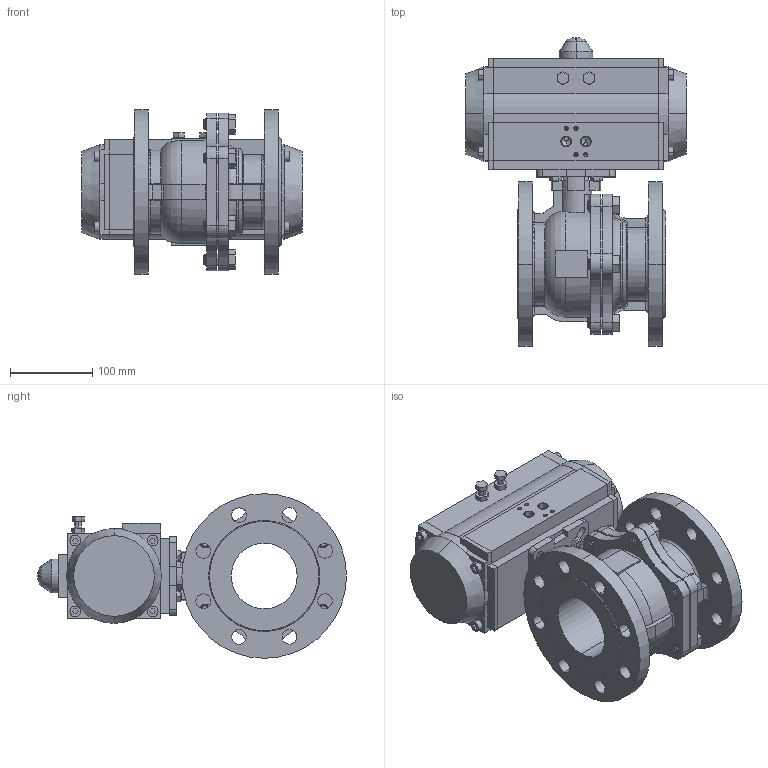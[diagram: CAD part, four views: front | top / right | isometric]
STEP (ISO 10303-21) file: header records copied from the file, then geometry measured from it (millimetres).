
FILE_DESCRIPTION((''),'2;1');
FILE_NAME('BV-22F_RPA_ASM','2024-09-11T',('USER'),(''),'PRO/ENGINEER BY PARAMETRIC TECHNOLOGY CORPORATION, 2011220','PRO/ENGINEER BY PARAMETRIC TECHNOLOGY CORPORATION, 2011220','');
FILE_SCHEMA(('CONFIG_CONTROL_DESIGN'));
Length unit declared in the file: millimetre
Products named in the file (12): KORPUS_KRAN_FL; BOLT_M14X30; SB_KRAN_FL_ASM; KORPUS_PNEVMOPRIVOD; KOLCO_25_GOST13942; KRISKA_VERX; VINT; KRISKA_LEFT; KRISKA_RIGHT; SB_PNEVMOPRIVOD_ASM; B-7798-M8-16; BV-22F_RPA_ASM
Assembly tree (19 placements, depth 3):
  BV-22F_RPA_ASM
    SB_KRAN_FL_ASM
      KORPUS_KRAN_FL
      BOLT_M14X30  x6
    SB_PNEVMOPRIVOD_ASM
      KORPUS_PNEVMOPRIVOD
      KOLCO_25_GOST13942
      KRISKA_VERX
      VINT
      KRISKA_LEFT
      KRISKA_RIGHT
    B-7798-M8-16  x4
Bounding box: 268 x 375.45 x 200 mm (x, y, z)
Volume: 5647423.4 mm3; surface area: 569231.4 mm2
Topology: 17 solids, 55 shells, 904 faces, 2343 edges, 1509 vertices
Faces by surface type: plane 435, cylinder 349, cone 78, bspline 20, torus 20, sphere 2
Entity records: 25776 total; most frequent: CARTESIAN_POINT 5902, DIRECTION 4259, ORIENTED_EDGE 3894, EDGE_CURVE 2009, AXIS2_PLACEMENT_3D 1548, VERTEX_POINT 1321, VECTOR 1163, LINE 1163
